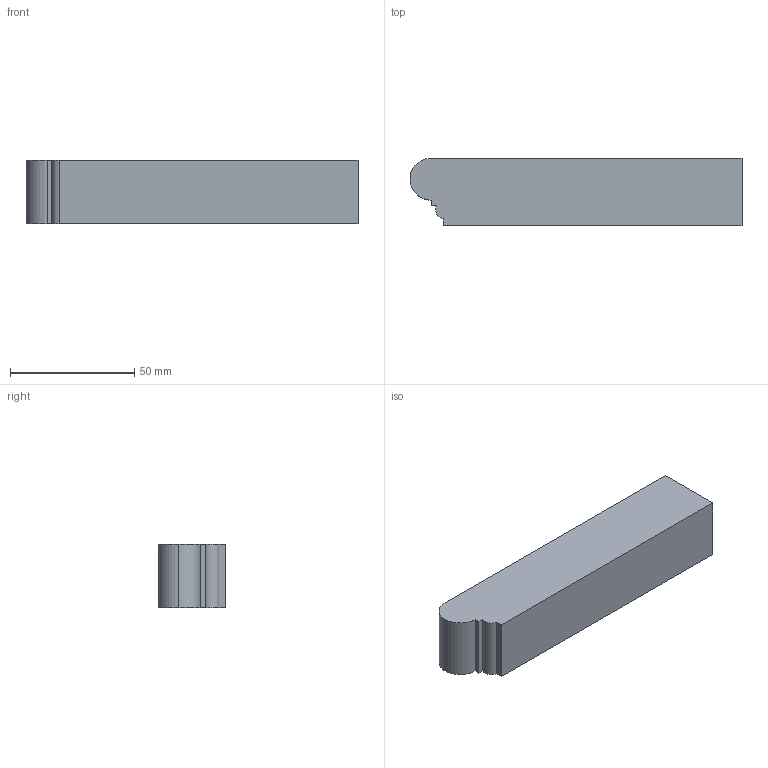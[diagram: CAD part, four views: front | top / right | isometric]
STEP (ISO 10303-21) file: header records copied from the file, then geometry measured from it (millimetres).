
FILE_DESCRIPTION (( 'STEP AP203' ), '1' );
FILE_NAME ('AB69FJ.STEP', '2023-08-25T14:12:54', ( '' ), ( '' ), 'SwSTEP 2.0', 'SolidWorks 2020', '' );
FILE_SCHEMA (( 'CONFIG_CONTROL_DESIGN' ));
Length unit declared in the file: inch
Products named in the file (1): AB69FJ
Bounding box: 133.35 x 27 x 25.4 mm (x, y, z)
Volume: 87826.3 mm3; surface area: 14849.7 mm2
Topology: 1 solids, 1 shells, 11 faces, 27 edges, 18 vertices
Faces by surface type: plane 8, cylinder 3
Entity records: 406 total; most frequent: CARTESIAN_POINT 57, DIRECTION 57, ORIENTED_EDGE 54, EDGE_CURVE 27, LINE 21, VECTOR 21, VERTEX_POINT 18, AXIS2_PLACEMENT_3D 18
